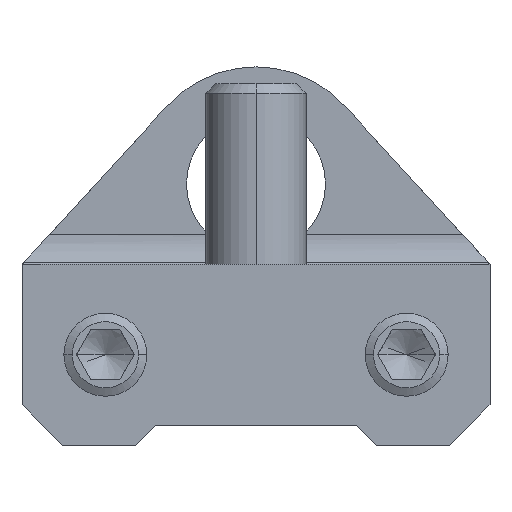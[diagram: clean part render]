
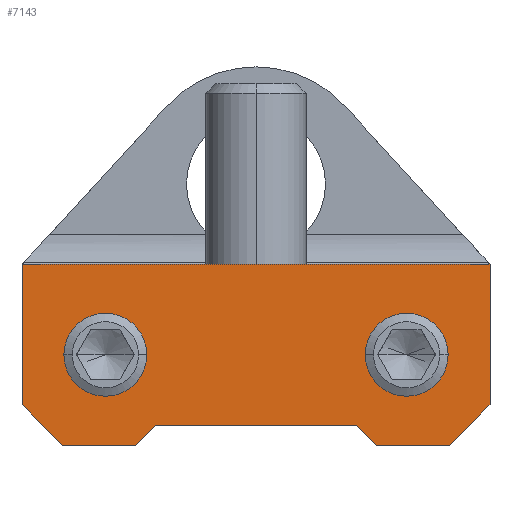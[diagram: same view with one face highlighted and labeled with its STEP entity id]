
A CAD part, front view. The second image highlights one B-rep face of the part: STEP entity #7143.
In plain terms, the highlighted planar face has unit normal (0, -1, 0).
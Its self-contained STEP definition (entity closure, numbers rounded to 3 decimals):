
#1943=CARTESIAN_POINT('',(-8.482,-137.0,-10.001));
#1944=VERTEX_POINT('',#1943);
#1960=CARTESIAN_POINT('',(-12.616,-137.0,-10.001));
#1961=VERTEX_POINT('',#1960);
#1968=CARTESIAN_POINT('',(-10.549,-137.0,-10.001));
#1969=DIRECTION('',(0.0,1.0,0.0));
#1970=DIRECTION('',(1.0,0.0,0.0));
#1971=AXIS2_PLACEMENT_3D('',#1968,#1969,#1970);
#1972=CIRCLE('',#1971,2.067);
#1973=EDGE_CURVE('',#1944,#1961,#1972,.T.);
#2151=CARTESIAN_POINT('',(6.518,-137.0,-10.001));
#2152=VERTEX_POINT('',#2151);
#2168=CARTESIAN_POINT('',(2.384,-137.0,-10.001));
#2169=VERTEX_POINT('',#2168);
#2176=CARTESIAN_POINT('',(4.451,-137.0,-10.001));
#2177=DIRECTION('',(0.0,1.0,0.0));
#2178=DIRECTION('',(1.0,0.0,0.0));
#2179=AXIS2_PLACEMENT_3D('',#2176,#2177,#2178);
#2180=CIRCLE('',#2179,2.067);
#2181=EDGE_CURVE('',#2152,#2169,#2180,.T.);
#5497=CARTESIAN_POINT('',(4.451,-137.0,-10.001));
#5498=DIRECTION('',(0.0,1.0,0.0));
#5499=DIRECTION('',(1.0,0.0,0.0));
#5500=AXIS2_PLACEMENT_3D('',#5497,#5498,#5499);
#5501=CIRCLE('',#5500,2.067);
#5502=EDGE_CURVE('',#2169,#2152,#5501,.T.);
#5797=CARTESIAN_POINT('',(-10.549,-137.0,-10.001));
#5798=DIRECTION('',(0.0,1.0,0.0));
#5799=DIRECTION('',(1.0,0.0,0.0));
#5800=AXIS2_PLACEMENT_3D('',#5797,#5798,#5799);
#5801=CIRCLE('',#5800,2.067);
#5802=EDGE_CURVE('',#1961,#1944,#5801,.T.);
#7012=CARTESIAN_POINT('',(-14.699,-137.0,-5.501));
#7013=VERTEX_POINT('',#7012);
#7020=CARTESIAN_POINT('',(8.601,-137.0,-5.501));
#7021=VERTEX_POINT('',#7020);
#7022=CARTESIAN_POINT('',(-14.699,-137.0,-5.501));
#7023=DIRECTION('',(1.0,0.0,0.0));
#7024=VECTOR('',#7023,23.3);
#7025=LINE('',#7022,#7024);
#7026=EDGE_CURVE('',#7013,#7021,#7025,.T.);
#7057=CARTESIAN_POINT('',(-3.049,-137.0,-9.686));
#7058=DIRECTION('',(0.0,1.0,0.0));
#7059=DIRECTION('',(0.0,0.0,1.0));
#7060=AXIS2_PLACEMENT_3D('',#7057,#7058,#7059);
#7061=PLANE('',#7060);
#7062=CARTESIAN_POINT('',(2.951,-137.0,-14.501));
#7063=VERTEX_POINT('',#7062);
#7064=CARTESIAN_POINT('',(1.951,-137.0,-13.501));
#7065=VERTEX_POINT('',#7064);
#7066=CARTESIAN_POINT('',(2.951,-137.0,-14.501));
#7067=DIRECTION('',(-0.707,0.0,0.707));
#7068=VECTOR('',#7067,1.414);
#7069=LINE('',#7066,#7068);
#7070=EDGE_CURVE('',#7063,#7065,#7069,.T.);
#7071=ORIENTED_EDGE('',*,*,#7070,.F.);
#7072=CARTESIAN_POINT('',(6.601,-137.0,-14.501));
#7073=VERTEX_POINT('',#7072);
#7074=CARTESIAN_POINT('',(6.601,-137.0,-14.501));
#7075=DIRECTION('',(-1.0,0.0,0.0));
#7076=VECTOR('',#7075,3.65);
#7077=LINE('',#7074,#7076);
#7078=EDGE_CURVE('',#7073,#7063,#7077,.T.);
#7079=ORIENTED_EDGE('',*,*,#7078,.F.);
#7080=CARTESIAN_POINT('',(8.601,-137.0,-12.501));
#7081=VERTEX_POINT('',#7080);
#7082=CARTESIAN_POINT('',(8.601,-137.0,-12.501));
#7083=DIRECTION('',(-0.707,0.0,-0.707));
#7084=VECTOR('',#7083,2.828);
#7085=LINE('',#7082,#7084);
#7086=EDGE_CURVE('',#7081,#7073,#7085,.T.);
#7087=ORIENTED_EDGE('',*,*,#7086,.F.);
#7088=CARTESIAN_POINT('',(8.601,-137.0,-5.501));
#7089=DIRECTION('',(0.0,0.0,-1.0));
#7090=VECTOR('',#7089,7.);
#7091=LINE('',#7088,#7090);
#7092=EDGE_CURVE('',#7021,#7081,#7091,.T.);
#7093=ORIENTED_EDGE('',*,*,#7092,.F.);
#7094=ORIENTED_EDGE('',*,*,#7026,.F.);
#7095=CARTESIAN_POINT('',(-14.699,-137.0,-12.501));
#7096=VERTEX_POINT('',#7095);
#7097=CARTESIAN_POINT('',(-14.699,-137.0,-12.501));
#7098=DIRECTION('',(0.0,0.0,1.0));
#7099=VECTOR('',#7098,7.0);
#7100=LINE('',#7097,#7099);
#7101=EDGE_CURVE('',#7096,#7013,#7100,.T.);
#7102=ORIENTED_EDGE('',*,*,#7101,.F.);
#7103=CARTESIAN_POINT('',(-12.699,-137.0,-14.501));
#7104=VERTEX_POINT('',#7103);
#7105=CARTESIAN_POINT('',(-12.699,-137.0,-14.501));
#7106=DIRECTION('',(-0.707,0.0,0.707));
#7107=VECTOR('',#7106,2.828);
#7108=LINE('',#7105,#7107);
#7109=EDGE_CURVE('',#7104,#7096,#7108,.T.);
#7110=ORIENTED_EDGE('',*,*,#7109,.F.);
#7111=CARTESIAN_POINT('',(-9.049,-137.0,-14.501));
#7112=VERTEX_POINT('',#7111);
#7113=CARTESIAN_POINT('',(-9.049,-137.0,-14.501));
#7114=DIRECTION('',(-1.0,0.0,0.0));
#7115=VECTOR('',#7114,3.65);
#7116=LINE('',#7113,#7115);
#7117=EDGE_CURVE('',#7112,#7104,#7116,.T.);
#7118=ORIENTED_EDGE('',*,*,#7117,.F.);
#7119=CARTESIAN_POINT('',(-8.049,-137.0,-13.501));
#7120=VERTEX_POINT('',#7119);
#7121=CARTESIAN_POINT('',(-8.049,-137.0,-13.501));
#7122=DIRECTION('',(-0.707,0.0,-0.707));
#7123=VECTOR('',#7122,1.414);
#7124=LINE('',#7121,#7123);
#7125=EDGE_CURVE('',#7120,#7112,#7124,.T.);
#7126=ORIENTED_EDGE('',*,*,#7125,.F.);
#7127=CARTESIAN_POINT('',(1.951,-137.0,-13.501));
#7128=DIRECTION('',(-1.0,0.0,0.0));
#7129=VECTOR('',#7128,10.0);
#7130=LINE('',#7127,#7129);
#7131=EDGE_CURVE('',#7065,#7120,#7130,.T.);
#7132=ORIENTED_EDGE('',*,*,#7131,.F.);
#7133=EDGE_LOOP('',(#7071,#7079,#7087,#7093,#7094,#7102,#7110,#7118,#7126,#7132));
#7134=FACE_OUTER_BOUND('',#7133,.T.);
#7135=ORIENTED_EDGE('',*,*,#2181,.T.);
#7136=ORIENTED_EDGE('',*,*,#5502,.T.);
#7137=EDGE_LOOP('',(#7135,#7136));
#7138=FACE_BOUND('',#7137,.T.);
#7139=ORIENTED_EDGE('',*,*,#1973,.T.);
#7140=ORIENTED_EDGE('',*,*,#5802,.T.);
#7141=EDGE_LOOP('',(#7139,#7140));
#7142=FACE_BOUND('',#7141,.T.);
#7143=ADVANCED_FACE('',(#7134,#7138,#7142),#7061,.F.);
